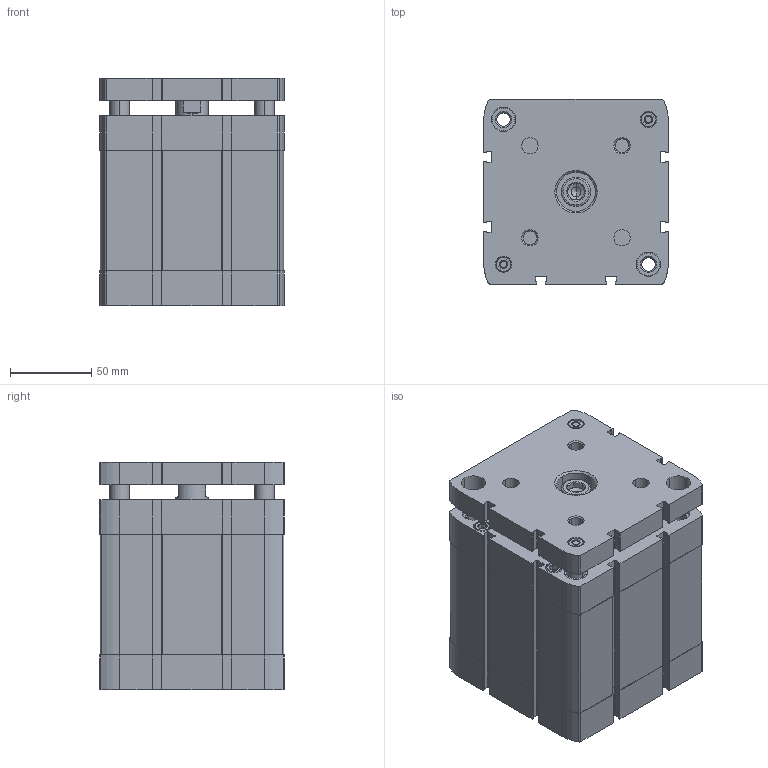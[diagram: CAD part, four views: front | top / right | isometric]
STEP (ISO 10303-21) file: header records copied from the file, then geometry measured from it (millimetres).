
FILE_DESCRIPTION (( 'STEP AP203' ), '1' );
FILE_NAME ('CCNG100-50.STEP', '2017-04-20T18:10:58', ( '' ), ( '' ), 'SwSTEP 2.0', 'SolidWorks 2016', '' );
FILE_SCHEMA (( 'CONFIG_CONTROL_DESIGN' ));
Length unit declared in the file: millimetre
Products named in the file (3): CCNG-100-50---(Z); CCNG-100-50----(KS); CCNG100-50
Assembly tree (2 placements, depth 2):
  CCNG100-50
    CCNG-100-50---(Z)
    CCNG-100-50----(KS)
Bounding box: 113.5 x 113.5 x 140 mm (x, y, z)
Volume: 1218394.2 mm3; surface area: 219239.4 mm2
Topology: 2 solids, 4 shells, 797 faces, 2106 edges, 1355 vertices
Faces by surface type: plane 343, cylinder 304, cone 144, bspline 6
Entity records: 25577 total; most frequent: CARTESIAN_POINT 5029, DIRECTION 4414, ORIENTED_EDGE 4176, EDGE_CURVE 2088, AXIS2_PLACEMENT_3D 1624, VERTEX_POINT 1355, VECTOR 1166, LINE 1166
